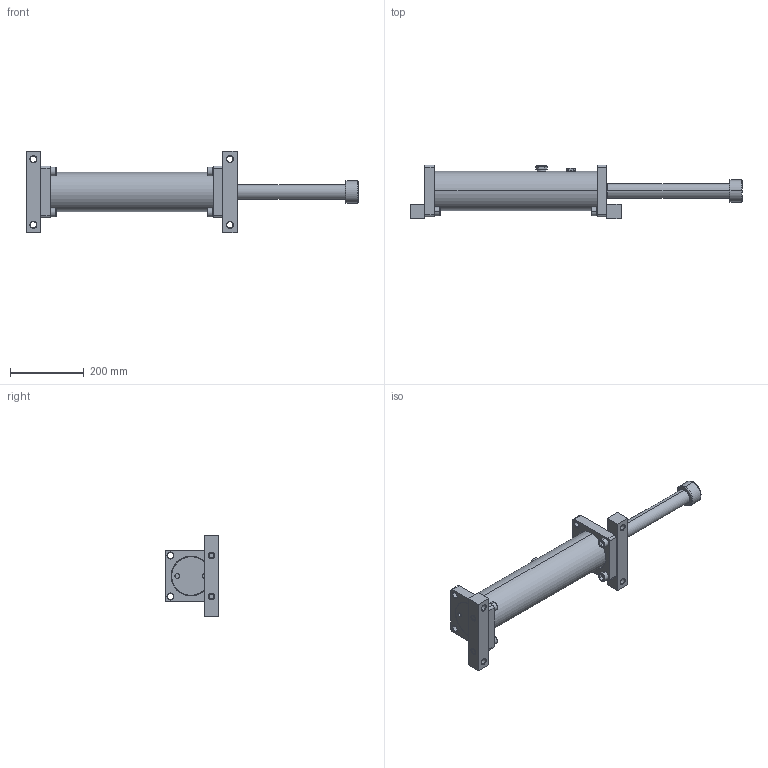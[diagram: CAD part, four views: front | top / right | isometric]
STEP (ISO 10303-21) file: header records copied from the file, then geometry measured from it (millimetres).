
FILE_DESCRIPTION (( 'STEP AP214' ), '1' );
FILE_NAME ('LDD2.0X12.STEP', '2019-01-16T06:06:46', ( 'user' ), ( 'Microsoft' ), 'SwSTEP 2.0', 'SolidWorks 2016', '' );
FILE_SCHEMA (( 'AUTOMOTIVE_DESIGN' ));
Length unit declared in the file: inch
Products named in the file (1): LDD2.0X12
Bounding box: 899 x 145.5 x 220 mm (x, y, z)
Surface area: 424858.2 mm2 (no closed solid volume)
Topology: 0 solids, 25 shells, 270 faces, 711 edges, 474 vertices
Faces by surface type: plane 99, cylinder 83, cone 58, bspline 30
Entity records: 14209 total; most frequent: CARTESIAN_POINT 7586, DIRECTION 1394, ORIENTED_EDGE 1276, EDGE_CURVE 711, AXIS2_PLACEMENT_3D 545, VERTEX_POINT 474, EDGE_LOOP 329, VECTOR 304
